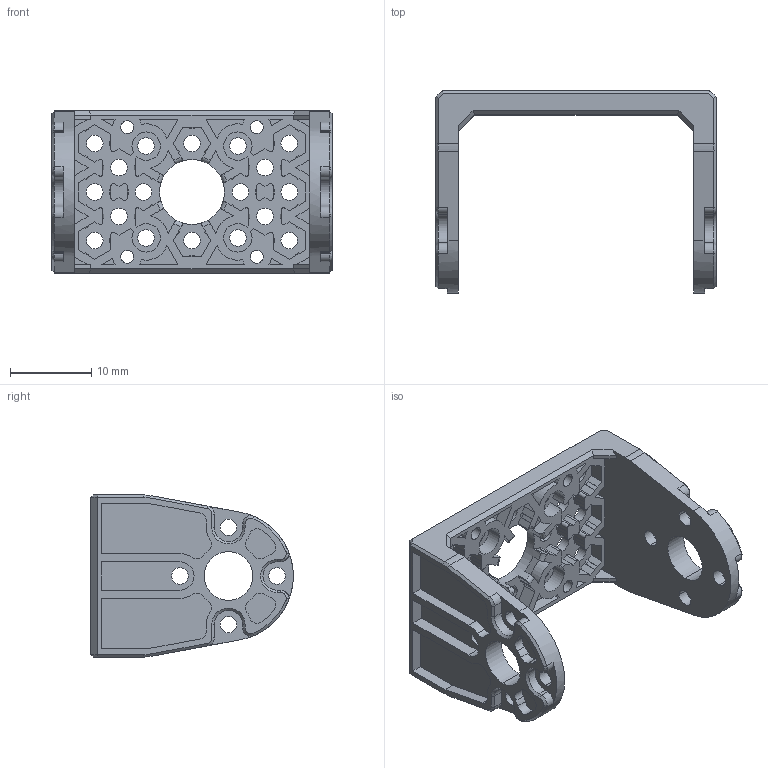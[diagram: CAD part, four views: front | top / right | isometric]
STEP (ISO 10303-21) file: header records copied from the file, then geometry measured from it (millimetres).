
FILE_DESCRIPTION (( 'STEP AP214' ), '1' );
FILE_NAME ('Finger2.STEP', '2026-09-16T05:47:24', ( '' ), ( '' ), 'SwSTEP 2.0', 'SolidWorks 2024', '' );
FILE_SCHEMA (( 'AUTOMOTIVE_DESIGN' ));
Length unit declared in the file: millimetre
Products named in the file (2): fpx330-h101_默认; Finger2
Assembly tree (1 placements, depth 2):
  Finger2
    fpx330-h101_默认
Bounding box: 34.6 x 25 x 20 mm (x, y, z)
Volume: 2465.7 mm3; surface area: 4236.7 mm2
Topology: 1 solids, 1 shells, 694 faces, 1884 edges, 1212 vertices
Faces by surface type: plane 456, cylinder 200, cone 30, torus 8
Entity records: 21897 total; most frequent: CARTESIAN_POINT 3850, ORIENTED_EDGE 3768, DIRECTION 3738, EDGE_CURVE 1884, LINE 1394, VECTOR 1394, VERTEX_POINT 1212, AXIS2_PLACEMENT_3D 1172
